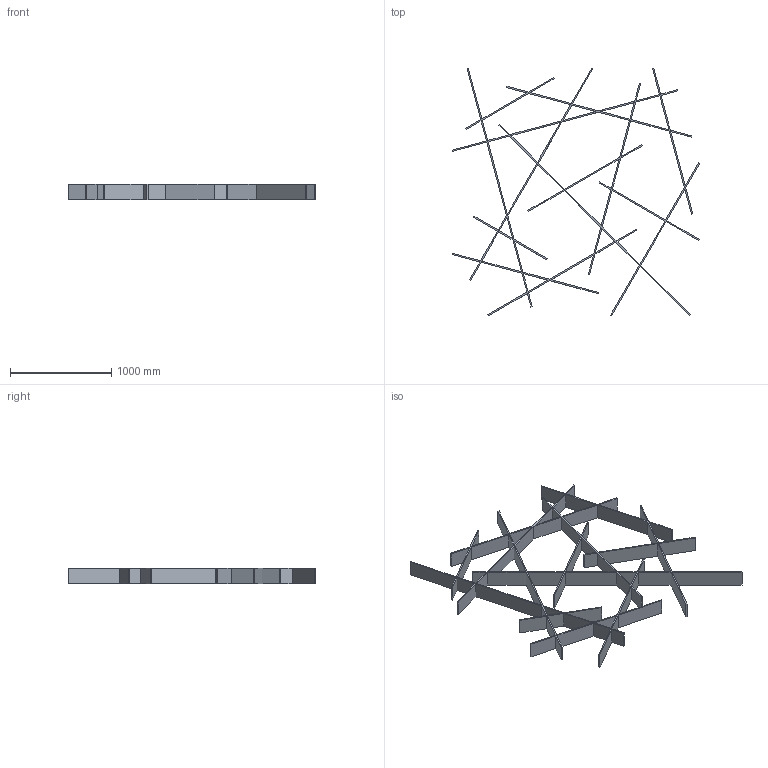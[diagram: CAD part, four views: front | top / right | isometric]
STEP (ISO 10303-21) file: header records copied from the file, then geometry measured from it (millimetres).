
FILE_DESCRIPTION(/* description */ (''),/* implementation_level */ '2;1');
FILE_NAME(/* name */ 'Thatch Original Simplified',/* time_stamp */ '2026-04-13T11:08:22-05:00',/* author */ (''),/* organization */ (''),/* preprocessor_version */ 'ST-DEVELOPER v19.2',/* originating_system */ 'Rhino 8.29',/* authorisation */ '');
FILE_SCHEMA (('CONFIG_CONTROL_DESIGN'));
Length unit declared in the file: inch
Products named in the file (1): Document
Bounding box: 2445.54 x 2447.07 x 152.4 mm (x, y, z)
Volume: 46292057.9 mm3; surface area: 7822480.4 mm2
Topology: 1 solids, 1 shells, 170 faces, 504 edges, 336 vertices
Faces by surface type: plane 170
Entity records: 4930 total; most frequent: CARTESIAN_POINT 1488, ORIENTED_EDGE 1008, EDGE_CURVE 504, B_SPLINE_CURVE_WITH_KNOTS 504, VERTEX_POINT 336, EDGE_LOOP 200, ADVANCED_FACE 170, FACE_OUTER_BOUND 170
